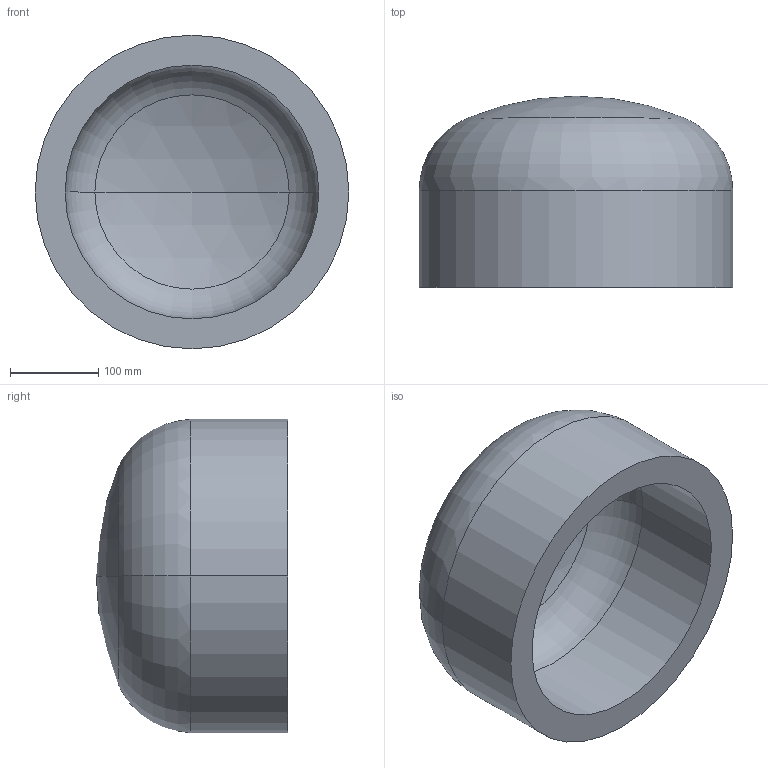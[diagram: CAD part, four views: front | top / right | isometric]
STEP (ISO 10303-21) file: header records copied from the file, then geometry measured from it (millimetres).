
FILE_DESCRIPTION (( 'STEP AP203' ), '1' );
FILE_NAME ('DIN 28013 Korbbogenform_-_Boden DIN 28013 - 355,6 x 110 - I - s=34.step', '2016-07-01T07:47:46', ( '' ), ( '' ), 'SwSTEP 2.0', 'SolidWorks 2013', '' );
FILE_SCHEMA (( 'CONFIG_CONTROL_DESIGN' ));
Length unit declared in the file: millimetre
Products named in the file (1): DIN 28013 Korbbogenform_-_Boden DIN 28013 - 355,6 x 110 - I - s=34
Bounding box: 355.6 x 216.92 x 355.6 mm (x, y, z)
Volume: 7936036.8 mm3; surface area: 503598.2 mm2
Topology: 1 solids, 1 shells, 13 faces, 24 edges, 14 vertices
Faces by surface type: torus 4, cylinder 4, sphere 4, plane 1
Entity records: 407 total; most frequent: DIRECTION 72, CARTESIAN_POINT 52, ORIENTED_EDGE 48, AXIS2_PLACEMENT_3D 34, EDGE_CURVE 24, CIRCLE 20, EDGE_LOOP 14, VERTEX_POINT 14
